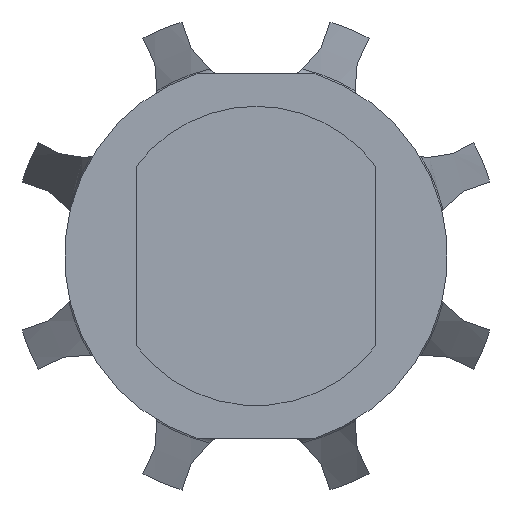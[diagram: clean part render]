
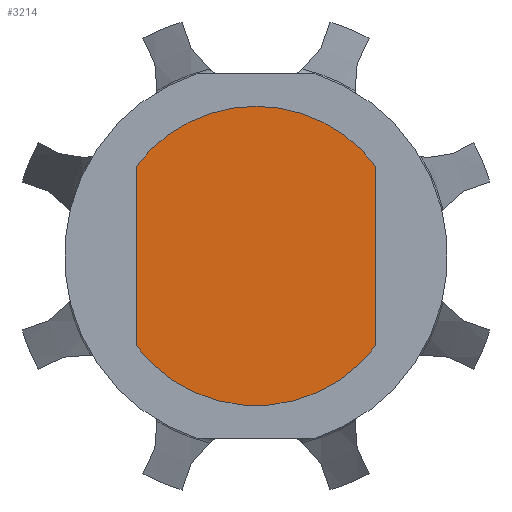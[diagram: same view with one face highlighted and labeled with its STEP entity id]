
A CAD part, front view. The second image highlights one B-rep face of the part: STEP entity #3214.
In plain terms, the highlighted planar face has unit normal (0, -1, 0).
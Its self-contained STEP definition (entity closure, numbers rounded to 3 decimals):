
#145 = DIRECTION ( 'NONE',  ( 0., 0., -1. ) ) ;
#233 = CARTESIAN_POINT ( 'NONE',  ( -20., -23., -15. ) ) ;
#237 = VERTEX_POINT ( 'NONE', #3000 ) ;
#394 = EDGE_CURVE ( 'NONE', #237, #3481, #1726, .T. ) ;
#423 = ORIENTED_EDGE ( 'NONE', *, *, #562, .T. ) ;
#505 = EDGE_CURVE ( 'NONE', #237, #1336, #2370, .T. ) ;
#516 = DIRECTION ( 'NONE',  ( 0., 0., -1. ) ) ;
#562 = EDGE_CURVE ( 'NONE', #3481, #2953, #3195, .T. ) ;
#694 = VECTOR ( 'NONE', #2022, 1000. ) ;
#828 = VERTEX_POINT ( 'NONE', #233 ) ;
#856 = DIRECTION ( 'NONE',  ( 0., -1., 0. ) ) ;
#908 = PLANE ( 'NONE',  #936 ) ;
#936 = AXIS2_PLACEMENT_3D ( 'NONE', #2556, #3346, #145 ) ;
#1108 = AXIS2_PLACEMENT_3D ( 'NONE', #1768, #1219, #1748 ) ;
#1219 = DIRECTION ( 'NONE',  ( 0., -1., 0. ) ) ;
#1336 = VERTEX_POINT ( 'NONE', #2489 ) ;
#1384 = ORIENTED_EDGE ( 'NONE', *, *, #505, .F. ) ;
#1478 = CARTESIAN_POINT ( 'NONE',  ( -20., -23., 0. ) ) ;
#1606 = DIRECTION ( 'NONE',  ( 0., 0., -1. ) ) ;
#1612 = VECTOR ( 'NONE', #1606, 1000. ) ;
#1688 = EDGE_CURVE ( 'NONE', #828, #1336, #2618, .T. ) ;
#1726 = CIRCLE ( 'NONE', #1108, 25. ) ;
#1748 = DIRECTION ( 'NONE',  ( 0., 0., -1. ) ) ;
#1768 = CARTESIAN_POINT ( 'NONE',  ( 0., -23., 0. ) ) ;
#1794 = EDGE_CURVE ( 'NONE', #828, #2953, #2003, .T. ) ;
#1943 = CARTESIAN_POINT ( 'NONE',  ( 0., -23., 25. ) ) ;
#2003 = LINE ( 'NONE', #1478, #694 ) ;
#2006 = AXIS2_PLACEMENT_3D ( 'NONE', #2930, #2097, #516 ) ;
#2022 = DIRECTION ( 'NONE',  ( 0., 0., 1. ) ) ;
#2030 = ORIENTED_EDGE ( 'NONE', *, *, #394, .T. ) ;
#2097 = DIRECTION ( 'NONE',  ( 0., -1., 0. ) ) ;
#2370 = LINE ( 'NONE', #3223, #1612 ) ;
#2489 = CARTESIAN_POINT ( 'NONE',  ( 20., -23., -15. ) ) ;
#2556 = CARTESIAN_POINT ( 'NONE',  ( 0., -23., 0. ) ) ;
#2618 = CIRCLE ( 'NONE', #3104, 25. ) ;
#2803 = EDGE_LOOP ( 'NONE', ( #2908, #3267, #1384, #2030, #423 ) ) ;
#2908 = ORIENTED_EDGE ( 'NONE', *, *, #1794, .F. ) ;
#2930 = CARTESIAN_POINT ( 'NONE',  ( 0., -23., 0. ) ) ;
#2953 = VERTEX_POINT ( 'NONE', #3314 ) ;
#3000 = CARTESIAN_POINT ( 'NONE',  ( 20., -23., 15. ) ) ;
#3034 = DIRECTION ( 'NONE',  ( 0., 0., -1. ) ) ;
#3049 = FACE_OUTER_BOUND ( 'NONE', #2803, .T. ) ;
#3052 = CARTESIAN_POINT ( 'NONE',  ( 0., -23., 0. ) ) ;
#3104 = AXIS2_PLACEMENT_3D ( 'NONE', #3052, #856, #3034 ) ;
#3195 = CIRCLE ( 'NONE', #2006, 25. ) ;
#3214 = ADVANCED_FACE ( 'NONE', ( #3049 ), #908, .T. ) ;
#3223 = CARTESIAN_POINT ( 'NONE',  ( 20., -23., 0. ) ) ;
#3267 = ORIENTED_EDGE ( 'NONE', *, *, #1688, .T. ) ;
#3314 = CARTESIAN_POINT ( 'NONE',  ( -20., -23., 15. ) ) ;
#3346 = DIRECTION ( 'NONE',  ( 0., -1., 0. ) ) ;
#3481 = VERTEX_POINT ( 'NONE', #1943 ) ;
